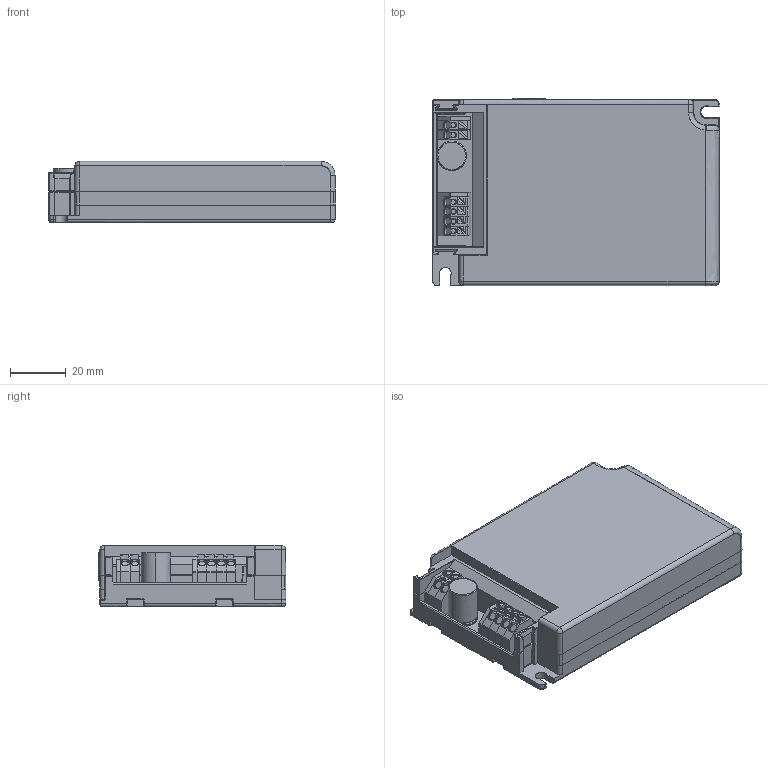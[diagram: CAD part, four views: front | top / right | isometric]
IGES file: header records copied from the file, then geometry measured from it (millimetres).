
Start section: SolidWorks IGES file using analytic representation for surfaces
Global section: file name: C:\Temp\OLQ-batchEngine\queue\temp_\4356098swm000.igs; native system: SolidWorks 2020; preprocessor: SolidWorks 2020; author: SYSTEM; date: 211023.041426; units: millimetre
Bounding box: 103 x 67.52 x 22 mm (x, y, z)
Surface area: 27029 mm2 (no closed solid volume)
Topology: 0 solids, 0 shells, 1144 faces, 7764 edges, 7726 vertices
Faces by surface type: bspline 751, revolution 393
